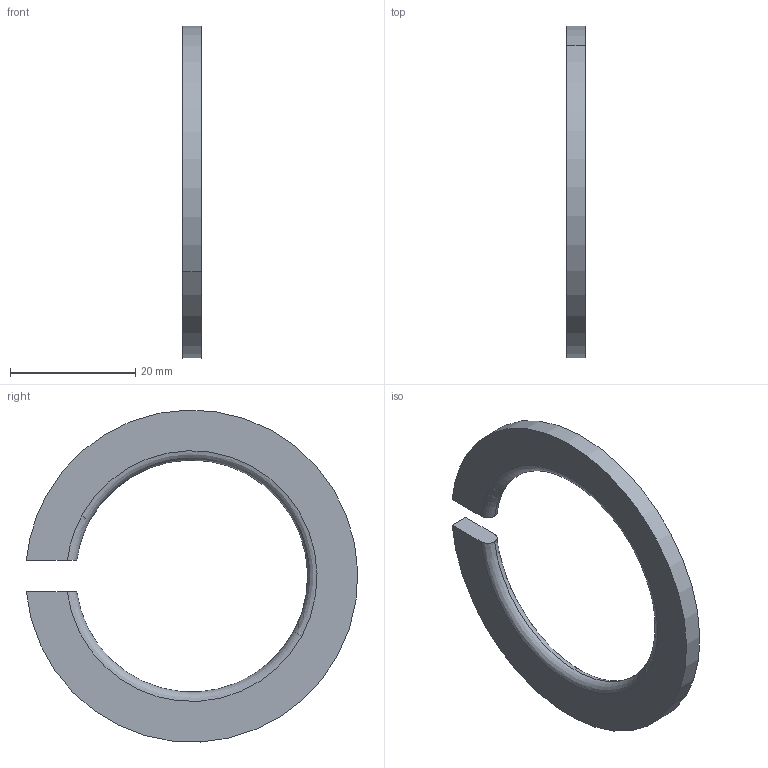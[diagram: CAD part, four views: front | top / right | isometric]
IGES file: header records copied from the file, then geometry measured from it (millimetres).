
Start section: START RECORD GO HERE.
Global section: file name: Clavette.igs; native system: IBM CATIA IGES - CATIA Version 5 Release 18 ; preprocessor: CATIA Version 5 Release 18 ; author: Propriétaire; organization: FUJITSU-79916BB; date: 20090111.155625; units: millimetre
Bounding box: 3 x 52.87 x 52.96 mm (x, y, z)
Surface area: 2905.1 mm2 (no closed solid volume)
Topology: 0 solids, 0 shells, 13 faces, 62 edges, 62 vertices
Faces by surface type: revolution 9, plane 4
